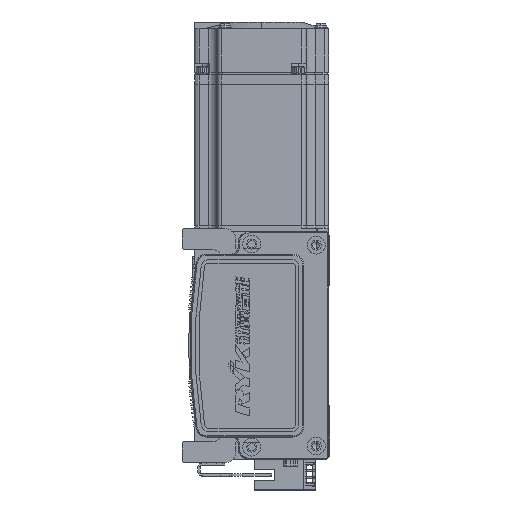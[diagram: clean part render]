
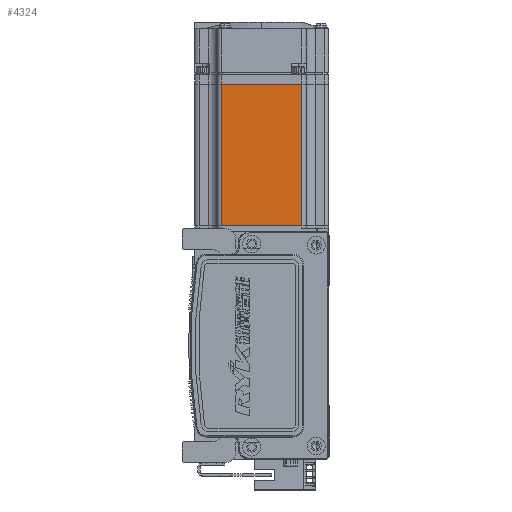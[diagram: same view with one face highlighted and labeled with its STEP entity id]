
A CAD part, left-side view. The second image highlights one B-rep face of the part: STEP entity #4324.
In plain terms, the highlighted planar face has unit normal (-1, 0, 0) as drawn and (0, 0, -1) by its records, which use the part's own axes.
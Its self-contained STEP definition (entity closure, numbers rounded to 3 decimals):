
#298 = CARTESIAN_POINT ( 'NONE',  ( -6.5, -18., -30. ) ) ;
#1207 = VECTOR ( 'NONE', #44635, 1000. ) ;
#2483 = LINE ( 'NONE', #23903, #18781 ) ;
#4275 = CARTESIAN_POINT ( 'NONE',  ( -7.75, -18., -30. ) ) ;
#4324 = ADVANCED_FACE ( 'NONE', ( #71054 ), #58297, .T. ) ;
#9169 = EDGE_CURVE ( 'NONE', #25617, #54861, #14612, .T. ) ;
#9658 = CARTESIAN_POINT ( 'NONE',  ( -70.95, -18., -30. ) ) ;
#10323 = VECTOR ( 'NONE', #40322, 1000. ) ;
#11261 = DIRECTION ( 'NONE',  ( -1., 0., 0. ) ) ;
#11766 = ORIENTED_EDGE ( 'NONE', *, *, #62684, .T. ) ;
#14612 = LINE ( 'NONE', #35292, #10323 ) ;
#15766 = LINE ( 'NONE', #66804, #1207 ) ;
#18156 = LINE ( 'NONE', #298, #41463 ) ;
#18781 = VECTOR ( 'NONE', #45341, 1000. ) ;
#23903 = CARTESIAN_POINT ( 'NONE',  ( -70.95, 25., -30. ) ) ;
#25617 = VERTEX_POINT ( 'NONE', #45446 ) ;
#27976 = EDGE_CURVE ( 'NONE', #34431, #58055, #18156, .T. ) ;
#29885 = AXIS2_PLACEMENT_3D ( 'NONE', #47687, #41439, #52774 ) ;
#30735 = EDGE_LOOP ( 'NONE', ( #11766, #66154, #37353, #36735 ) ) ;
#34431 = VERTEX_POINT ( 'NONE', #4275 ) ;
#35292 = CARTESIAN_POINT ( 'NONE',  ( -6.5, 18., -30. ) ) ;
#36735 = ORIENTED_EDGE ( 'NONE', *, *, #9169, .T. ) ;
#37353 = ORIENTED_EDGE ( 'NONE', *, *, #59494, .T. ) ;
#40322 = DIRECTION ( 'NONE',  ( 1., 0., 0. ) ) ;
#41439 = DIRECTION ( 'NONE',  ( 0., 0., -1. ) ) ;
#41463 = VECTOR ( 'NONE', #11261, 1000. ) ;
#43327 = CARTESIAN_POINT ( 'NONE',  ( -7.75, 18., -30. ) ) ;
#44635 = DIRECTION ( 'NONE',  ( 0., -1., 0. ) ) ;
#45341 = DIRECTION ( 'NONE',  ( 0., 1., 0. ) ) ;
#45446 = CARTESIAN_POINT ( 'NONE',  ( -70.95, 18., -30. ) ) ;
#47687 = CARTESIAN_POINT ( 'NONE',  ( -6.5, 25., -30. ) ) ;
#52774 = DIRECTION ( 'NONE',  ( -1., 0., 0. ) ) ;
#54861 = VERTEX_POINT ( 'NONE', #43327 ) ;
#58055 = VERTEX_POINT ( 'NONE', #9658 ) ;
#58297 = PLANE ( 'NONE',  #29885 ) ;
#59494 = EDGE_CURVE ( 'NONE', #58055, #25617, #2483, .T. ) ;
#62684 = EDGE_CURVE ( 'NONE', #54861, #34431, #15766, .T. ) ;
#66154 = ORIENTED_EDGE ( 'NONE', *, *, #27976, .T. ) ;
#66804 = CARTESIAN_POINT ( 'NONE',  ( -7.75, 25., -30. ) ) ;
#71054 = FACE_OUTER_BOUND ( 'NONE', #30735, .T. ) ;
